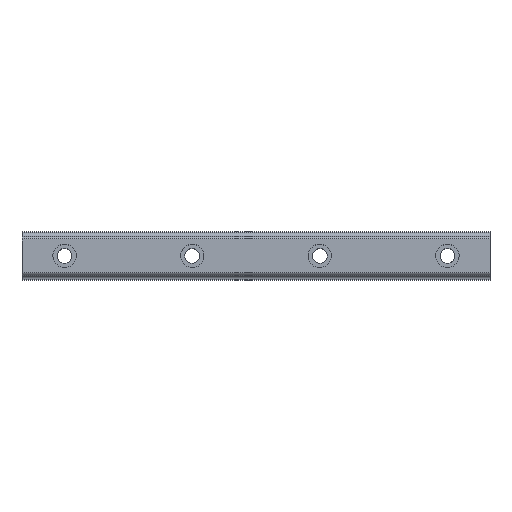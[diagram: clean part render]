
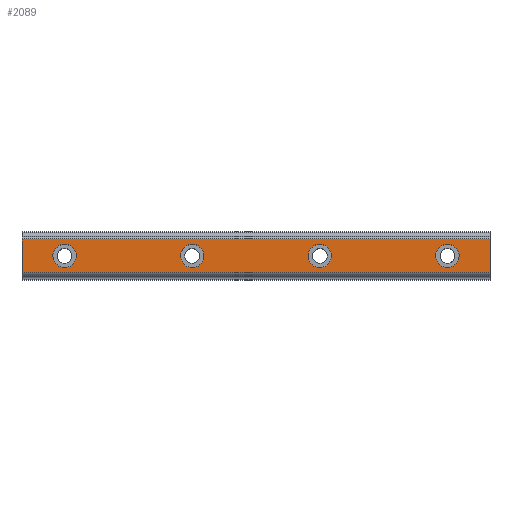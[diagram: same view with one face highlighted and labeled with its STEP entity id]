
A CAD part, top view. The second image highlights one B-rep face of the part: STEP entity #2089.
In plain terms, the highlighted planar face has unit normal (0, 0, 1).
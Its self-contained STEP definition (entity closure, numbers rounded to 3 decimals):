
#1738=CARTESIAN_POINT('POINT127',(200.,-7.989,
   18.));
#1739=VERTEX_POINT('VERTEX127',#1738);
#1747=CARTESIAN_POINT('POINT128',(-20.,-7.989,
   18.));
#1748=VERTEX_POINT('VERTEX128',#1747);
#1749=CARTESIAN_POINT('POS185',(-20.,-7.989,
   18.));
#1750=DIRECTION('DIR287',(1.,0.,0.));
#1751=VECTOR('VEC83',#1750,1.);
#1752=LINE('STRAIGHT83',#1749,#1751);
#1753=EDGE_CURVE('EDGE186',#1748,#1739,#1752,.T.);
#1790=CARTESIAN_POINT('POINT129',(-20.,7.989,
   18.));
#1791=VERTEX_POINT('VERTEX129',#1790);
#1792=CARTESIAN_POINT('POS188',(-20.,-7.989,
   18.));
#1793=DIRECTION('DIR292',(0.,1.,0.));
#1794=VECTOR('VEC84',#1793,1.);
#1795=LINE('STRAIGHT84',#1792,#1794);
#1796=EDGE_CURVE('EDGE188',#1748,#1791,#1795,.T.);
#1830=CARTESIAN_POINT('POINT130',(200.,7.989,
   18.));
#1831=VERTEX_POINT('VERTEX130',#1830);
#1841=CARTESIAN_POINT('POS192',(-20.,7.989,
   18.));
#1842=DIRECTION('DIR299',(1.,0.,0.));
#1843=VECTOR('VEC85',#1842,1.);
#1844=LINE('STRAIGHT85',#1841,#1843);
#1845=EDGE_CURVE('EDGE191',#1791,#1831,#1844,.T.);
#1875=CARTESIAN_POINT('POS194',(200.,0.,
   18.));
#1876=DIRECTION('DIR302',(0.,1.,0.));
#1877=VECTOR('VEC86',#1876,1.);
#1878=LINE('STRAIGHT86',#1875,#1877);
#1879=EDGE_CURVE('EDGE192',#1739,#1831,#1878,.T.);
#1906=CARTESIAN_POINT('POINT131',(65.5,0.,
   18.));
#1907=VERTEX_POINT('VERTEX131',#1906);
#1915=CARTESIAN_POINT('POINT132',(54.5,0.,
   18.));
#1916=VERTEX_POINT('VERTEX132',#1915);
#1923=CARTESIAN_POINT('POS198',(60.,0.,18.)
   );
#1924=DIRECTION('DIR307',(0.,0.,-1.));
#1925=DIRECTION('DIR308',(1.,0.,0.));
#1926=AXIS2_PLACEMENT_3D('AXIS110',#1923,#1924,#1925);
#1927=CIRCLE('ELLIPSE64',#1926,5.5);
#1928=EDGE_CURVE('EDGE195',#1907,#1916,#1927,.T.);
#1939=EDGE_CURVE('EDGE196',#1916,#1907,#1927,.T.);
#1946=CARTESIAN_POINT('POINT133',(125.5,0.,
   18.));
#1947=VERTEX_POINT('VERTEX133',#1946);
#1955=CARTESIAN_POINT('POINT134',(114.5,0.,
   18.));
#1956=VERTEX_POINT('VERTEX134',#1955);
#1963=CARTESIAN_POINT('POS202',(120.,0.,18.)
   );
#1964=DIRECTION('DIR313',(0.,0.,-1.));
#1965=DIRECTION('DIR314',(1.,0.,0.));
#1966=AXIS2_PLACEMENT_3D('AXIS112',#1963,#1964,#1965);
#1967=CIRCLE('ELLIPSE65',#1966,5.5);
#1968=EDGE_CURVE('EDGE199',#1947,#1956,#1967,.T.);
#1979=EDGE_CURVE('EDGE200',#1956,#1947,#1967,.T.);
#1986=CARTESIAN_POINT('POINT135',(185.5,0.,
   18.));
#1987=VERTEX_POINT('VERTEX135',#1986);
#1995=CARTESIAN_POINT('POINT136',(174.5,0.,
   18.));
#1996=VERTEX_POINT('VERTEX136',#1995);
#2003=CARTESIAN_POINT('POS206',(180.,0.,18.)
   );
#2004=DIRECTION('DIR319',(0.,0.,-1.));
#2005=DIRECTION('DIR320',(1.,0.,0.));
#2006=AXIS2_PLACEMENT_3D('AXIS114',#2003,#2004,#2005);
#2007=CIRCLE('ELLIPSE66',#2006,5.5);
#2008=EDGE_CURVE('EDGE203',#1987,#1996,#2007,.T.);
#2019=EDGE_CURVE('EDGE204',#1996,#1987,#2007,.T.);
#2051=ORIENTED_EDGE('COEDGE401',*,*,#2019,.T.);
#2052=ORIENTED_EDGE('COEDGE402',*,*,#2008,.T.);
#2053=EDGE_LOOP('NONE',(#2051,#2052));
#2054=FACE_BOUND('LOOP1',#2053,.T.);
#2055=ORIENTED_EDGE('COEDGE403',*,*,#1979,.T.);
#2056=ORIENTED_EDGE('COEDGE404',*,*,#1968,.T.);
#2057=EDGE_LOOP('NONE',(#2055,#2056));
#2058=FACE_BOUND('LOOP1',#2057,.T.);
#2059=ORIENTED_EDGE('COEDGE405',*,*,#1939,.T.);
#2060=ORIENTED_EDGE('COEDGE406',*,*,#1928,.T.);
#2061=EDGE_LOOP('NONE',(#2059,#2060));
#2062=FACE_BOUND('LOOP1',#2061,.T.);
#2063=CARTESIAN_POINT('POINT139',(-5.5,0.,
   18.));
#2064=VERTEX_POINT('VERTEX139',#2063);
#2065=CARTESIAN_POINT('POINT140',(5.5,0.,
   18.));
#2066=VERTEX_POINT('VERTEX140',#2065);
#2067=CARTESIAN_POINT('POS210',(0.,0.,18.)
   );
#2068=DIRECTION('DIR327',(0.,0.,-1.));
#2069=DIRECTION('DIR328',(1.,0.,0.));
#2070=AXIS2_PLACEMENT_3D('AXIS118',#2067,#2068,#2069);
#2071=CIRCLE('ELLIPSE68',#2070,5.5);
#2072=EDGE_CURVE('EDGE207',#2064,#2066,#2071,.T.);
#2073=ORIENTED_EDGE('COEDGE407',*,*,#2072,.T.);
#2074=EDGE_CURVE('EDGE208',#2066,#2064,#2071,.T.);
#2075=ORIENTED_EDGE('COEDGE408',*,*,#2074,.T.);
#2076=EDGE_LOOP('NONE',(#2073,#2075));
#2077=FACE_BOUND('LOOP1',#2076,.T.);
#2078=ORIENTED_EDGE('COEDGE409',*,*,#1879,.T.);
#2079=ORIENTED_EDGE('COEDGE410',*,*,#1845,.F.);
#2080=ORIENTED_EDGE('COEDGE411',*,*,#1796,.F.);
#2081=ORIENTED_EDGE('COEDGE412',*,*,#1753,.T.);
#2082=EDGE_LOOP('NONE',(#2078,#2079,#2080,#2081));
#2083=FACE_BOUND('LOOP1',#2082,.T.);
#2084=CARTESIAN_POINT('POS211',(-20.,0.,
   18.));
#2085=DIRECTION('DIR329',(0.,0.,1.));
#2086=DIRECTION('DIR330',(1.,0.,0.));
#2087=AXIS2_PLACEMENT_3D('AXIS119',#2084,#2085,#2086);
#2088=PLANE('PLANE26',#2087);
#2089=ADVANCED_FACE('FACE70',(#2054,#2058,#2062,#2077,#2083),#2088,.T.);
